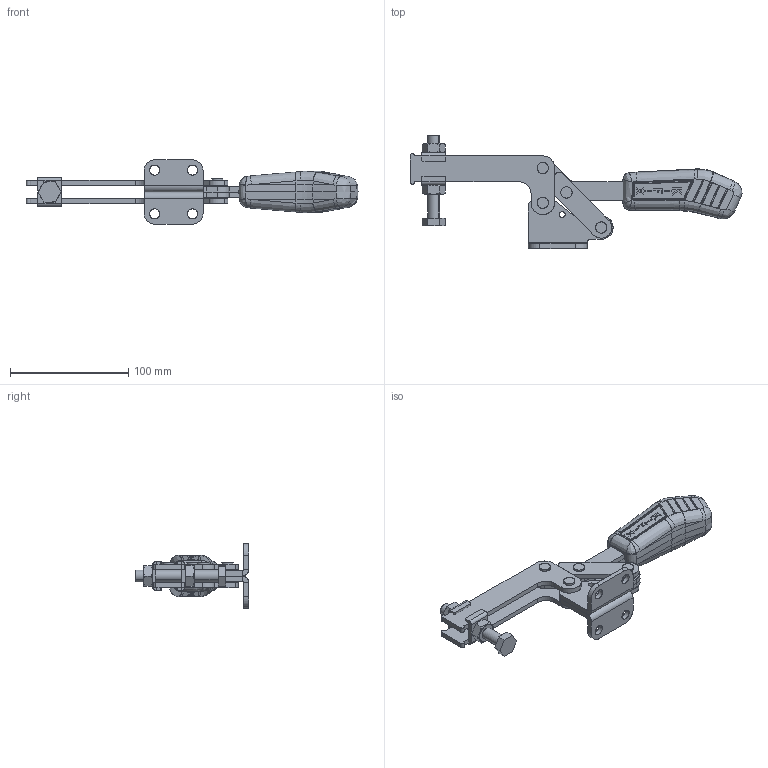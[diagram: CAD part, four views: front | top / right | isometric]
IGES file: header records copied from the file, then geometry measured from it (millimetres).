
Start section: SolidWorks IGES file using analytic representation for surfaces
Global section: file name: C:\Projetos\Grampos\KF-531\KF-531 DIL\KF-531 DIL.IGS; native system: SolidWorks 2013; preprocessor: SolidWorks 2013; author: Ricardo; date: 140818.112938; units: millimetre
Bounding box: 281.19 x 95.84 x 55 mm (x, y, z)
Surface area: 81342.4 mm2 (no closed solid volume)
Topology: 0 solids, 0 shells, 802 faces, 9424 edges, 9393 vertices
Faces by surface type: bspline 432, revolution 370
